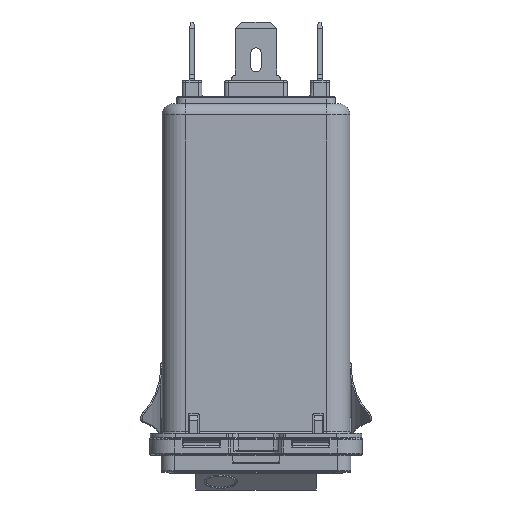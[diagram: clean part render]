
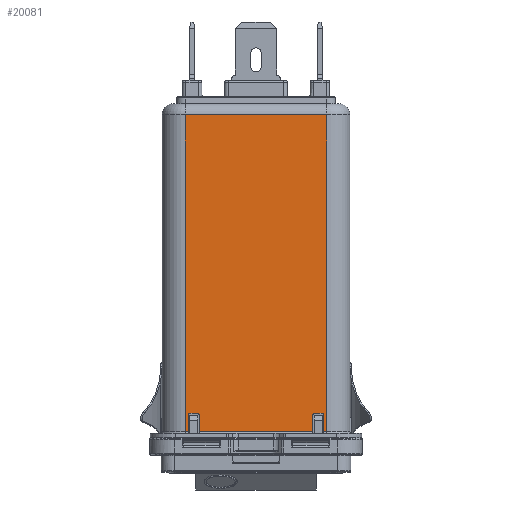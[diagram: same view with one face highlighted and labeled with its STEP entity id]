
A CAD part, top view. The second image highlights one B-rep face of the part: STEP entity #20081.
In plain terms, the highlighted planar face has unit normal (0, 0, 1).
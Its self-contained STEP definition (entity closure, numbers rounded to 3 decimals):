
#19923=CARTESIAN_POINT('',(10.7,51.3,23.1));
#19924=VERTEX_POINT('',#19923);
#19925=CARTESIAN_POINT('',(10.7,3.4,23.1));
#19926=VERTEX_POINT('',#19925);
#19927=CARTESIAN_POINT('',(10.7,51.3,23.1));
#19928=DIRECTION('',(0.0,-1.0,0.0));
#19929=VECTOR('',#19928,47.9);
#19930=LINE('',#19927,#19929);
#19931=EDGE_CURVE('',#19924,#19926,#19930,.T.);
#19951=CARTESIAN_POINT('',(10.7,53.0,23.1));
#19952=DIRECTION('',(0.0,0.0,1.0));
#19953=DIRECTION('',(1.0,0.0,0.0));
#19954=AXIS2_PLACEMENT_3D('',#19951,#19952,#19953);
#19955=PLANE('',#19954);
#19956=CARTESIAN_POINT('',(-8.6,3.4,23.1));
#19957=VERTEX_POINT('',#19956);
#19958=CARTESIAN_POINT('',(-8.6,6.,23.1));
#19959=VERTEX_POINT('',#19958);
#19960=CARTESIAN_POINT('',(-8.6,3.4,23.1));
#19961=DIRECTION('',(0.0,1.0,0.0));
#19962=VECTOR('',#19961,2.6);
#19963=LINE('',#19960,#19962);
#19964=EDGE_CURVE('',#19957,#19959,#19963,.T.);
#19965=ORIENTED_EDGE('',*,*,#19964,.F.);
#19966=CARTESIAN_POINT('',(8.6,3.4,23.1));
#19967=VERTEX_POINT('',#19966);
#19968=CARTESIAN_POINT('',(-8.6,3.4,23.1));
#19969=DIRECTION('',(1.0,0.0,0.0));
#19970=VECTOR('',#19969,17.2);
#19971=LINE('',#19968,#19970);
#19972=EDGE_CURVE('',#19957,#19967,#19971,.T.);
#19973=ORIENTED_EDGE('',*,*,#19972,.T.);
#19974=CARTESIAN_POINT('',(8.6,6.,23.1));
#19975=VERTEX_POINT('',#19974);
#19976=CARTESIAN_POINT('',(8.6,6.,23.1));
#19977=DIRECTION('',(0.0,-1.0,0.0));
#19978=VECTOR('',#19977,2.6);
#19979=LINE('',#19976,#19978);
#19980=EDGE_CURVE('',#19975,#19967,#19979,.T.);
#19981=ORIENTED_EDGE('',*,*,#19980,.F.);
#19982=CARTESIAN_POINT('',(8.8,6.2,23.1));
#19983=VERTEX_POINT('',#19982);
#19984=CARTESIAN_POINT('',(8.8,6.,23.1));
#19985=DIRECTION('',(0.0,0.0,1.0));
#19986=DIRECTION('',(1.0,0.0,0.0));
#19987=AXIS2_PLACEMENT_3D('',#19984,#19985,#19986);
#19988=CIRCLE('',#19987,0.2);
#19989=EDGE_CURVE('',#19983,#19975,#19988,.T.);
#19990=ORIENTED_EDGE('',*,*,#19989,.F.);
#19991=CARTESIAN_POINT('',(10.,6.2,23.1));
#19992=VERTEX_POINT('',#19991);
#19993=CARTESIAN_POINT('',(8.8,6.2,23.1));
#19994=DIRECTION('',(1.0,0.0,0.0));
#19995=VECTOR('',#19994,1.2);
#19996=LINE('',#19993,#19995);
#19997=EDGE_CURVE('',#19983,#19992,#19996,.T.);
#19998=ORIENTED_EDGE('',*,*,#19997,.T.);
#19999=CARTESIAN_POINT('',(10.2,6.,23.1));
#20000=VERTEX_POINT('',#19999);
#20001=CARTESIAN_POINT('',(10.,6.,23.1));
#20002=DIRECTION('',(0.0,0.0,1.0));
#20003=DIRECTION('',(1.0,0.0,0.0));
#20004=AXIS2_PLACEMENT_3D('',#20001,#20002,#20003);
#20005=CIRCLE('',#20004,0.2);
#20006=EDGE_CURVE('',#20000,#19992,#20005,.T.);
#20007=ORIENTED_EDGE('',*,*,#20006,.F.);
#20008=CARTESIAN_POINT('',(10.2,3.4,23.1));
#20009=VERTEX_POINT('',#20008);
#20010=CARTESIAN_POINT('',(10.2,3.4,23.1));
#20011=DIRECTION('',(0.0,1.0,0.0));
#20012=VECTOR('',#20011,2.6);
#20013=LINE('',#20010,#20012);
#20014=EDGE_CURVE('',#20009,#20000,#20013,.T.);
#20015=ORIENTED_EDGE('',*,*,#20014,.F.);
#20016=CARTESIAN_POINT('',(10.2,3.4,23.1));
#20017=DIRECTION('',(1.0,0.0,0.0));
#20018=VECTOR('',#20017,0.5);
#20019=LINE('',#20016,#20018);
#20020=EDGE_CURVE('',#20009,#19926,#20019,.T.);
#20021=ORIENTED_EDGE('',*,*,#20020,.T.);
#20022=ORIENTED_EDGE('',*,*,#19931,.F.);
#20023=CARTESIAN_POINT('',(-10.7,51.3,23.1));
#20024=VERTEX_POINT('',#20023);
#20025=CARTESIAN_POINT('',(10.7,51.3,23.1));
#20026=DIRECTION('',(-1.0,0.0,0.0));
#20027=VECTOR('',#20026,21.4);
#20028=LINE('',#20025,#20027);
#20029=EDGE_CURVE('',#19924,#20024,#20028,.T.);
#20030=ORIENTED_EDGE('',*,*,#20029,.T.);
#20031=CARTESIAN_POINT('',(-10.7,3.4,23.1));
#20032=VERTEX_POINT('',#20031);
#20033=CARTESIAN_POINT('',(-10.7,51.3,23.1));
#20034=DIRECTION('',(0.0,-1.0,0.0));
#20035=VECTOR('',#20034,47.9);
#20036=LINE('',#20033,#20035);
#20037=EDGE_CURVE('',#20024,#20032,#20036,.T.);
#20038=ORIENTED_EDGE('',*,*,#20037,.T.);
#20039=CARTESIAN_POINT('',(-10.2,3.4,23.1));
#20040=VERTEX_POINT('',#20039);
#20041=CARTESIAN_POINT('',(-10.7,3.4,23.1));
#20042=DIRECTION('',(1.0,0.0,0.0));
#20043=VECTOR('',#20042,0.5);
#20044=LINE('',#20041,#20043);
#20045=EDGE_CURVE('',#20032,#20040,#20044,.T.);
#20046=ORIENTED_EDGE('',*,*,#20045,.T.);
#20047=CARTESIAN_POINT('',(-10.2,6.,23.1));
#20048=VERTEX_POINT('',#20047);
#20049=CARTESIAN_POINT('',(-10.2,6.,23.1));
#20050=DIRECTION('',(0.0,-1.0,0.0));
#20051=VECTOR('',#20050,2.6);
#20052=LINE('',#20049,#20051);
#20053=EDGE_CURVE('',#20048,#20040,#20052,.T.);
#20054=ORIENTED_EDGE('',*,*,#20053,.F.);
#20055=CARTESIAN_POINT('',(-10.,6.2,23.1));
#20056=VERTEX_POINT('',#20055);
#20057=CARTESIAN_POINT('',(-10.,6.,23.1));
#20058=DIRECTION('',(0.0,0.0,1.0));
#20059=DIRECTION('',(1.0,0.0,0.0));
#20060=AXIS2_PLACEMENT_3D('',#20057,#20058,#20059);
#20061=CIRCLE('',#20060,0.2);
#20062=EDGE_CURVE('',#20056,#20048,#20061,.T.);
#20063=ORIENTED_EDGE('',*,*,#20062,.F.);
#20064=CARTESIAN_POINT('',(-8.8,6.2,23.1));
#20065=VERTEX_POINT('',#20064);
#20066=CARTESIAN_POINT('',(-10.,6.2,23.1));
#20067=DIRECTION('',(1.0,0.0,0.0));
#20068=VECTOR('',#20067,1.2);
#20069=LINE('',#20066,#20068);
#20070=EDGE_CURVE('',#20056,#20065,#20069,.T.);
#20071=ORIENTED_EDGE('',*,*,#20070,.T.);
#20072=CARTESIAN_POINT('',(-8.8,6.,23.1));
#20073=DIRECTION('',(0.0,0.0,1.0));
#20074=DIRECTION('',(1.0,0.0,0.0));
#20075=AXIS2_PLACEMENT_3D('',#20072,#20073,#20074);
#20076=CIRCLE('',#20075,0.2);
#20077=EDGE_CURVE('',#19959,#20065,#20076,.T.);
#20078=ORIENTED_EDGE('',*,*,#20077,.F.);
#20079=EDGE_LOOP('',(#19965,#19973,#19981,#19990,#19998,#20007,#20015,#20021,#20022,#20030,#20038,#20046,#20054,#20063,#20071,#20078));
#20080=FACE_OUTER_BOUND('',#20079,.T.);
#20081=ADVANCED_FACE('',(#20080),#19955,.T.);
